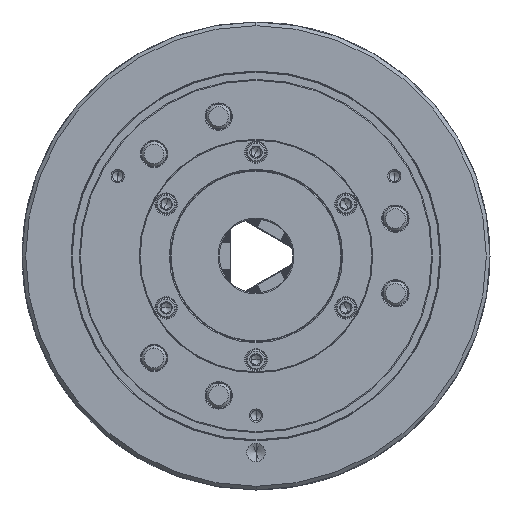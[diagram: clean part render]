
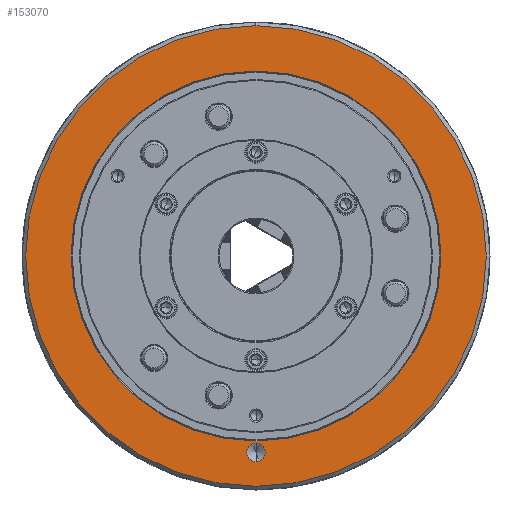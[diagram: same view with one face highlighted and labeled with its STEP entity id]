
A CAD part, left-side view. The second image highlights one B-rep face of the part: STEP entity #153070.
In plain terms, the highlighted planar face has unit normal (-1, 0, 0).
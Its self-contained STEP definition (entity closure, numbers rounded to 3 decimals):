
#4605 = CIRCLE ( 'NONE', #33612, 7.5 ) ;
#7842 = CARTESIAN_POINT ( 'NONE',  ( -133., 0., -150.6 ) ) ;
#8982 = DIRECTION ( 'NONE',  ( 0., 0., 1. ) ) ;
#11013 = DIRECTION ( 'NONE',  ( 0., 0., 1. ) ) ;
#12951 = EDGE_CURVE ( 'NONE', #133745, #68251, #160036, .T. ) ;
#13996 = EDGE_LOOP ( 'NONE', ( #135198, #42306 ) ) ;
#16650 = CARTESIAN_POINT ( 'NONE',  ( -133., 0., -160. ) ) ;
#21034 = ORIENTED_EDGE ( 'NONE', *, *, #45108, .F. ) ;
#21390 = CARTESIAN_POINT ( 'NONE',  ( -133., 0., 0. ) ) ;
#22600 = FACE_BOUND ( 'NONE', #120484, .T. ) ;
#22886 = AXIS2_PLACEMENT_3D ( 'NONE', #21390, #71747, #8982 ) ;
#26493 = CARTESIAN_POINT ( 'NONE',  ( -133., 0., -187.5 ) ) ;
#27535 = CARTESIAN_POINT ( 'NONE',  ( -133., 0., -167.5 ) ) ;
#27934 = CARTESIAN_POINT ( 'NONE',  ( -133., 0., 0. ) ) ;
#29818 = AXIS2_PLACEMENT_3D ( 'NONE', #100217, #61426, #111795 ) ;
#33612 = AXIS2_PLACEMENT_3D ( 'NONE', #145051, #68224, #120233 ) ;
#35118 = VERTEX_POINT ( 'NONE', #7842 ) ;
#36396 = ORIENTED_EDGE ( 'NONE', *, *, #84240, .F. ) ;
#42306 = ORIENTED_EDGE ( 'NONE', *, *, #12951, .T. ) ;
#42307 = EDGE_CURVE ( 'NONE', #35118, #125029, #98513, .T. ) ;
#43045 = DIRECTION ( 'NONE',  ( 0., 0., 1. ) ) ;
#45108 = EDGE_CURVE ( 'NONE', #80191, #48084, #4605, .T. ) ;
#46540 = CARTESIAN_POINT ( 'NONE',  ( -133., 0., 0. ) ) ;
#46872 = ORIENTED_EDGE ( 'NONE', *, *, #42307, .F. ) ;
#47393 = PLANE ( 'NONE',  #29818 ) ;
#48084 = VERTEX_POINT ( 'NONE', #27535 ) ;
#49134 = CARTESIAN_POINT ( 'NONE',  ( -133., 0., 187.5 ) ) ;
#50280 = DIRECTION ( 'NONE',  ( -1., 0., 0. ) ) ;
#58823 = CARTESIAN_POINT ( 'NONE',  ( -133., 0., -152.5 ) ) ;
#58977 = FACE_BOUND ( 'NONE', #118056, .T. ) ;
#61426 = DIRECTION ( 'NONE',  ( 1., 0., 0. ) ) ;
#65681 = AXIS2_PLACEMENT_3D ( 'NONE', #46540, #99379, #11013 ) ;
#66755 = AXIS2_PLACEMENT_3D ( 'NONE', #27934, #50280, #77460 ) ;
#68224 = DIRECTION ( 'NONE',  ( -1., 0., 0. ) ) ;
#68251 = VERTEX_POINT ( 'NONE', #26493 ) ;
#69509 = CIRCLE ( 'NONE', #93218, 150.6 ) ;
#71747 = DIRECTION ( 'NONE',  ( -1., 0., 0. ) ) ;
#74441 = CARTESIAN_POINT ( 'NONE',  ( -133., 0., 150.6 ) ) ;
#76153 = CIRCLE ( 'NONE', #65681, 187.5 ) ;
#77460 = DIRECTION ( 'NONE',  ( 0., 0., 1. ) ) ;
#80191 = VERTEX_POINT ( 'NONE', #58823 ) ;
#84240 = EDGE_CURVE ( 'NONE', #48084, #80191, #92582, .T. ) ;
#92582 = CIRCLE ( 'NONE', #100473, 7.5 ) ;
#93218 = AXIS2_PLACEMENT_3D ( 'NONE', #99168, #161144, #137165 ) ;
#98513 = CIRCLE ( 'NONE', #66755, 150.6 ) ;
#99168 = CARTESIAN_POINT ( 'NONE',  ( -133., 0., 0. ) ) ;
#99379 = DIRECTION ( 'NONE',  ( -1., 0., 0. ) ) ;
#100217 = CARTESIAN_POINT ( 'NONE',  ( -133., 187.5, 0. ) ) ;
#100473 = AXIS2_PLACEMENT_3D ( 'NONE', #16650, #105853, #43045 ) ;
#105853 = DIRECTION ( 'NONE',  ( -1., 0., 0. ) ) ;
#111795 = DIRECTION ( 'NONE',  ( 0., 0., -1. ) ) ;
#117553 = EDGE_CURVE ( 'NONE', #125029, #35118, #69509, .T. ) ;
#118056 = EDGE_LOOP ( 'NONE', ( #142578, #46872 ) ) ;
#120233 = DIRECTION ( 'NONE',  ( 0., 0., 1. ) ) ;
#120484 = EDGE_LOOP ( 'NONE', ( #21034, #36396 ) ) ;
#122545 = FACE_OUTER_BOUND ( 'NONE', #13996, .T. ) ;
#125029 = VERTEX_POINT ( 'NONE', #74441 ) ;
#127672 = EDGE_CURVE ( 'NONE', #68251, #133745, #76153, .T. ) ;
#133745 = VERTEX_POINT ( 'NONE', #49134 ) ;
#135198 = ORIENTED_EDGE ( 'NONE', *, *, #127672, .T. ) ;
#137165 = DIRECTION ( 'NONE',  ( 0., 0., 1. ) ) ;
#142578 = ORIENTED_EDGE ( 'NONE', *, *, #117553, .F. ) ;
#145051 = CARTESIAN_POINT ( 'NONE',  ( -133., 0., -160. ) ) ;
#153070 = ADVANCED_FACE ( 'NONE', ( #22600, #58977, #122545 ), #47393, .F. ) ;
#160036 = CIRCLE ( 'NONE', #22886, 187.5 ) ;
#161144 = DIRECTION ( 'NONE',  ( -1., 0., 0. ) ) ;
